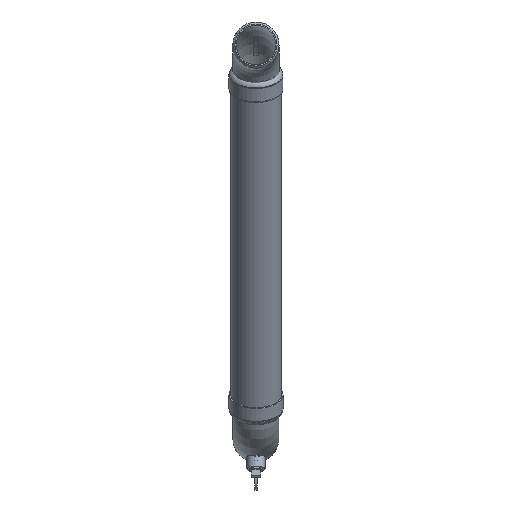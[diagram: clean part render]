
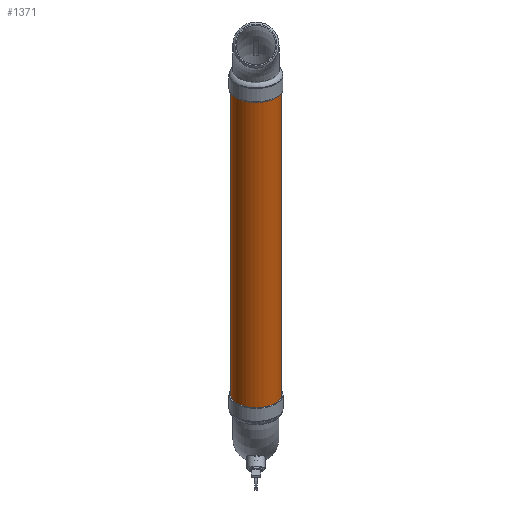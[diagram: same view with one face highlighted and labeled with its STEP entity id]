
A CAD part, front view. The second image highlights one B-rep face of the part: STEP entity #1371.
In plain terms, the highlighted cylindrical face has radius 40.284 mm (diameter 80.569 mm), a full revolution.
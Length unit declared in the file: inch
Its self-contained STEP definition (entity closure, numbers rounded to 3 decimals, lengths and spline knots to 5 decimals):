
#254=CIRCLE('',#1561,1.586);
#255=CIRCLE('',#1562,1.586);
#338=FACE_BOUND('',#599,.T.);
#435=FACE_OUTER_BOUND('',#598,.T.);
#598=EDGE_LOOP('',(#1126));
#599=EDGE_LOOP('',(#1127));
#725=VERTEX_POINT('',#2423);
#726=VERTEX_POINT('',#2425);
#862=EDGE_CURVE('',#725,#725,#254,.T.);
#863=EDGE_CURVE('',#726,#726,#255,.T.);
#1126=ORIENTED_EDGE('',*,*,#862,.T.);
#1127=ORIENTED_EDGE('',*,*,#863,.F.);
#1173=CYLINDRICAL_SURFACE('',#1560,1.586);
#1371=ADVANCED_FACE('',(#435,#338),#1173,.T.);
#1560=AXIS2_PLACEMENT_3D('',#2422,#1949,#1950);
#1561=AXIS2_PLACEMENT_3D('',#2424,#1951,#1952);
#1562=AXIS2_PLACEMENT_3D('',#2426,#1953,#1954);
#1949=DIRECTION('center_axis',(0.,-0.5,0.866));
#1950=DIRECTION('ref_axis',(-0.226,-0.844,-0.487));
#1951=DIRECTION('center_axis',(0.,0.5,-0.866));
#1952=DIRECTION('ref_axis',(-0.226,-0.844,-0.487));
#1953=DIRECTION('center_axis',(0.,0.5,-0.866));
#1954=DIRECTION('ref_axis',(-0.226,-0.844,-0.487));
#2422=CARTESIAN_POINT('Origin',(0.00611,-3.2476,-22.6875));
#2423=CARTESIAN_POINT('',(0.36395,-13.9095,-1.13034));
#2424=CARTESIAN_POINT('Origin',(0.00611,-15.2476,-1.90289));
#2425=CARTESIAN_POINT('',(0.36395,-1.9095,-21.91495));
#2426=CARTESIAN_POINT('Origin',(0.00611,-3.2476,-22.6875));
